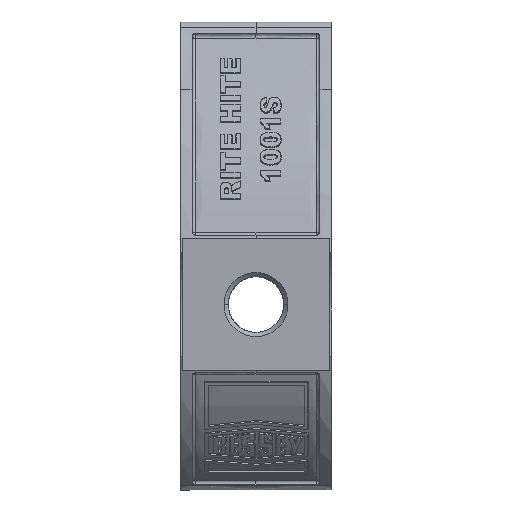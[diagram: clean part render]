
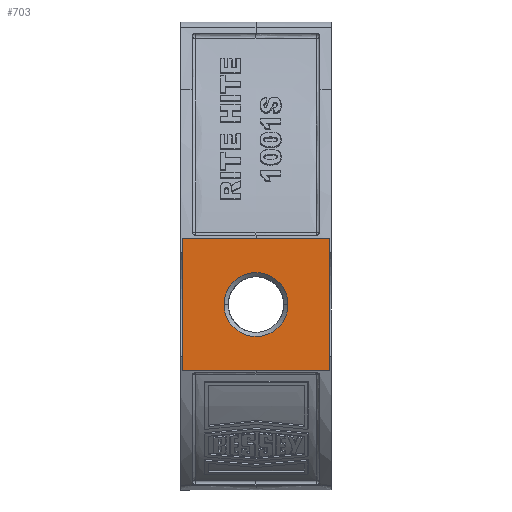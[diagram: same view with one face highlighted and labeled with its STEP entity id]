
A CAD part, front view. The second image highlights one B-rep face of the part: STEP entity #703.
In plain terms, the highlighted free-form (B-spline) face has degree [1, 1] with [2, 2] control points.
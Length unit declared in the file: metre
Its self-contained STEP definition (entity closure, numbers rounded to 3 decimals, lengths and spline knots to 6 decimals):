
#703 = ADVANCED_FACE( '', ( #1721, #1722 ), #1723, .F. );
#1721 = FACE_BOUND( '', #6226, .T. );
#1722 = FACE_OUTER_BOUND( '', #6227, .T. );
#1723 = B_SPLINE_SURFACE_WITH_KNOTS( '', 1, 1, ( ( #6228, #6229 ), ( #6230, #6231 ) ), .UNSPECIFIED., .F., .F., .F., ( 2, 2 ), ( 2, 2 ), ( 0., 1. ), ( 0., 1. ), .UNSPECIFIED. );
#6226 = EDGE_LOOP( '', ( #14162, #14163 ) );
#6227 = EDGE_LOOP( '', ( #14164, #14165, #14166, #14167 ) );
#6228 = CARTESIAN_POINT( '', ( 0.03575, 0., 0.032 ) );
#6229 = CARTESIAN_POINT( '', ( -0.03575, 0., 0.032 ) );
#6230 = CARTESIAN_POINT( '', ( 0.03575, 0., -0.032 ) );
#6231 = CARTESIAN_POINT( '', ( -0.03575, 0., -0.032 ) );
#14162 = ORIENTED_EDGE( '', *, *, #16824, .F. );
#14163 = ORIENTED_EDGE( '', *, *, #16825, .F. );
#14164 = ORIENTED_EDGE( '', *, *, #16161, .F. );
#14165 = ORIENTED_EDGE( '', *, *, #16826, .F. );
#14166 = ORIENTED_EDGE( '', *, *, #16403, .F. );
#14167 = ORIENTED_EDGE( '', *, *, #16827, .F. );
#16161 = EDGE_CURVE( '', #18963, #18962, #18965, .F. );
#16403 = EDGE_CURVE( '', #19417, #19416, #19419, .T. );
#16824 = EDGE_CURVE( '', #20200, #20201, #20202, .T. );
#16825 = EDGE_CURVE( '', #20201, #20200, #20203, .T. );
#16826 = EDGE_CURVE( '', #19416, #18963, #20204, .F. );
#16827 = EDGE_CURVE( '', #18962, #19417, #20205, .F. );
#18962 = VERTEX_POINT( '', #25225 );
#18963 = VERTEX_POINT( '', #25226 );
#18965 = B_SPLINE_CURVE_WITH_KNOTS( '', 1, ( #25361, #25362 ), .UNSPECIFIED., .F., .F., ( 2, 2 ), ( 0., 1. ), .UNSPECIFIED. );
#19416 = VERTEX_POINT( '', #27558 );
#19417 = VERTEX_POINT( '', #27559 );
#19419 = B_SPLINE_CURVE_WITH_KNOTS( '', 1, ( #27694, #27695 ), .UNSPECIFIED., .F., .F., ( 2, 2 ), ( 0., 1. ), .UNSPECIFIED. );
#20200 = VERTEX_POINT( '', #31148 );
#20201 = VERTEX_POINT( '', #31149 );
#20202 = ( BOUNDED_CURVE(  )B_SPLINE_CURVE( 2, ( #31152, #31153, #31154, #31155, #31156 ), .UNSPECIFIED., .F., .F. )B_SPLINE_CURVE_WITH_KNOTS( ( 3, 2, 3 ), ( 0., 0.5, 1. ), .UNSPECIFIED. )CURVE(  )GEOMETRIC_REPRESENTATION_ITEM(  )RATIONAL_B_SPLINE_CURVE( ( 1., 0.707, 1., 0.707, 1. ) )REPRESENTATION_ITEM( '' ) );
#20203 = ( BOUNDED_CURVE(  )B_SPLINE_CURVE( 2, ( #31164, #31165, #31166, #31167, #31168 ), .UNSPECIFIED., .F., .F. )B_SPLINE_CURVE_WITH_KNOTS( ( 3, 2, 3 ), ( 0., 0.5, 1. ), .UNSPECIFIED. )CURVE(  )GEOMETRIC_REPRESENTATION_ITEM(  )RATIONAL_B_SPLINE_CURVE( ( 1., 0.707, 1., 0.707, 1. ) )REPRESENTATION_ITEM( '' ) );
#20204 = B_SPLINE_CURVE_WITH_KNOTS( '', 1, ( #31174, #31175 ), .UNSPECIFIED., .F., .F., ( 2, 2 ), ( 0., 1. ), .UNSPECIFIED. );
#20205 = B_SPLINE_CURVE_WITH_KNOTS( '', 1, ( #31176, #31177 ), .UNSPECIFIED., .F., .F., ( 2, 2 ), ( 0., 1. ), .UNSPECIFIED. );
#25225 = CARTESIAN_POINT( '', ( -0.03575, 0., 0.032 ) );
#25226 = CARTESIAN_POINT( '', ( -0.03575, 0., -0.032 ) );
#25361 = CARTESIAN_POINT( '', ( -0.03575, 0., 0.032 ) );
#25362 = CARTESIAN_POINT( '', ( -0.03575, 0., -0.032 ) );
#27558 = CARTESIAN_POINT( '', ( 0.03575, 0., -0.032 ) );
#27559 = CARTESIAN_POINT( '', ( 0.03575, 0., 0.032 ) );
#27694 = CARTESIAN_POINT( '', ( 0.03575, 0., 0.032 ) );
#27695 = CARTESIAN_POINT( '', ( 0.03575, 0., -0.032 ) );
#31148 = CARTESIAN_POINT( '', ( -0.0155, 0., 0. ) );
#31149 = CARTESIAN_POINT( '', ( 0.0155, 0., 0. ) );
#31152 = CARTESIAN_POINT( '', ( -0.0155, 0., 0. ) );
#31153 = CARTESIAN_POINT( '', ( -0.0155, 0., -0.0155 ) );
#31154 = CARTESIAN_POINT( '', ( 0., 0., -0.0155 ) );
#31155 = CARTESIAN_POINT( '', ( 0.0155, 0., -0.0155 ) );
#31156 = CARTESIAN_POINT( '', ( 0.0155, 0., 0. ) );
#31164 = CARTESIAN_POINT( '', ( 0.0155, 0., 0. ) );
#31165 = CARTESIAN_POINT( '', ( 0.0155, 0., 0.0155 ) );
#31166 = CARTESIAN_POINT( '', ( 0., 0., 0.0155 ) );
#31167 = CARTESIAN_POINT( '', ( -0.0155, 0., 0.0155 ) );
#31168 = CARTESIAN_POINT( '', ( -0.0155, 0., 0. ) );
#31174 = CARTESIAN_POINT( '', ( -0.03575, 0., -0.032 ) );
#31175 = CARTESIAN_POINT( '', ( 0.03575, 0., -0.032 ) );
#31176 = CARTESIAN_POINT( '', ( 0.03575, 0., 0.032 ) );
#31177 = CARTESIAN_POINT( '', ( -0.03575, 0., 0.032 ) );
